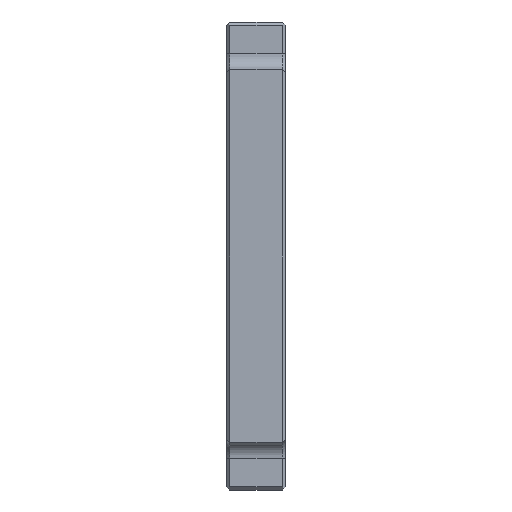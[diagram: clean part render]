
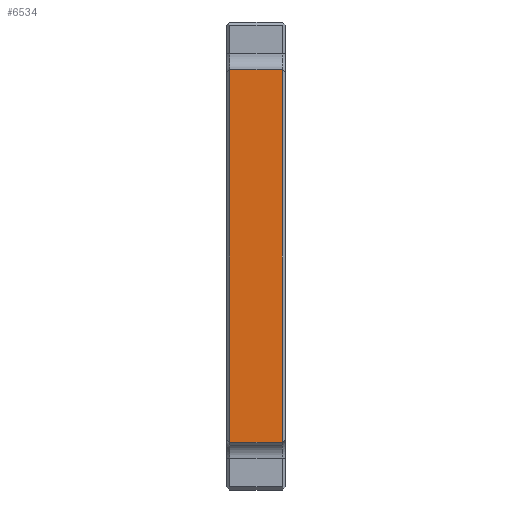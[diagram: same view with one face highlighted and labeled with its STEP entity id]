
A CAD part, left-side view. The second image highlights one B-rep face of the part: STEP entity #6534.
In plain terms, the highlighted planar face has unit normal (-1, 0, 0).
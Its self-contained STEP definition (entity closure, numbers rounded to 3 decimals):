
#2608=DIRECTION('',(0.,0.,-1.));
#2609=VECTOR('',#2608,60.706);
#2610=CARTESIAN_POINT('',(-179.981,49.033,38.94));
#2611=LINE('',#2610,#2609);
#2612=DIRECTION('',(0.,0.,1.));
#2613=VECTOR('',#2612,60.706);
#2614=CARTESIAN_POINT('',(-179.981,57.558,
-21.766));
#2615=LINE('',#2614,#2613);
#2616=DIRECTION('',(0.,-1.,0.));
#2617=VECTOR('',#2616,8.525);
#2618=CARTESIAN_POINT('',(-179.981,57.558,38.94));
#2619=LINE('',#2618,#2617);
#2774=DIRECTION('',(0.,1.,0.));
#2775=VECTOR('',#2774,8.525);
#2776=CARTESIAN_POINT('',(-179.981,49.033,
-21.766));
#2777=LINE('',#2776,#2775);
#3189=CARTESIAN_POINT('',(-179.981,49.033,38.94));
#3191=VERTEX_POINT('',#3189);
#3204=CARTESIAN_POINT('',(-179.981,49.033,
-21.766));
#3205=VERTEX_POINT('',#3204);
#3253=CARTESIAN_POINT('',(-179.981,57.558,38.94));
#3255=VERTEX_POINT('',#3253);
#3296=CARTESIAN_POINT('',(-179.981,57.558,
-21.766));
#3298=VERTEX_POINT('',#3296);
#6520=CARTESIAN_POINT('',(-179.981,58.058,38.94));
#6521=DIRECTION('',(1.,0.,0.));
#6522=DIRECTION('',(0.,0.,-1.));
#6523=AXIS2_PLACEMENT_3D('',#6520,#6521,#6522);
#6524=PLANE('',#6523);
#6526=ORIENTED_EDGE('',*,*,#6525,.T.);
#6528=ORIENTED_EDGE('',*,*,#6527,.T.);
#6530=ORIENTED_EDGE('',*,*,#6529,.T.);
#6531=ORIENTED_EDGE('',*,*,#6511,.T.);
#6532=EDGE_LOOP('',(#6526,#6528,#6530,#6531));
#6533=FACE_OUTER_BOUND('',#6532,.F.);
#6534=ADVANCED_FACE('',(#6533),#6524,.F.);
#6511=EDGE_CURVE('',#3255,#3191,#2619,.T.);
#6525=EDGE_CURVE('',#3191,#3205,#2611,.T.);
#6527=EDGE_CURVE('',#3205,#3298,#2777,.T.);
#6529=EDGE_CURVE('',#3298,#3255,#2615,.T.);
